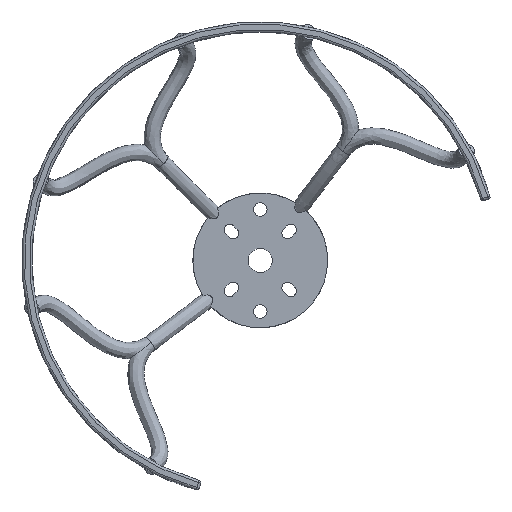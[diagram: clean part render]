
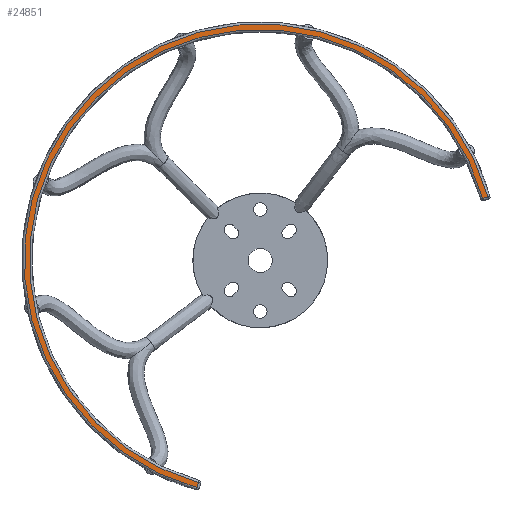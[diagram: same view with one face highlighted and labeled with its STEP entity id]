
A CAD part, top view. The second image highlights one B-rep face of the part: STEP entity #24851.
In plain terms, the highlighted planar face has unit normal (0, 0, 1).
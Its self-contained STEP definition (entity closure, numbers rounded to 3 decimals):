
#19255 = TOROIDAL_SURFACE('',#19256,47.95,0.45);
#19256 = AXIS2_PLACEMENT_3D('',#19257,#19258,#19259);
#19257 = CARTESIAN_POINT('',(-55.,55.,34.55));
#19258 = DIRECTION('',(0.,0.,-1.));
#19259 = DIRECTION('',(0.966,0.259,0.));
#20011 = TOROIDAL_SURFACE('',#20012,49.05,0.45);
#20012 = AXIS2_PLACEMENT_3D('',#20013,#20014,#20015);
#20013 = CARTESIAN_POINT('',(-55.,55.,34.55));
#20014 = DIRECTION('',(0.,0.,1.));
#20015 = DIRECTION('',(0.966,0.259,0.));
#23936 = VERTEX_POINT('',#23937);
#23937 = CARTESIAN_POINT('',(-8.802,67.844,35.));
#23966 = VERTEX_POINT('',#23967);
#23967 = CARTESIAN_POINT('',(-67.844,8.802,35.));
#23989 = EDGE_CURVE('',#23936,#23966,#23990,.T.);
#23990 = SURFACE_CURVE('',#23991,(#23996,#24003),.PCURVE_S1.);
#23991 = CIRCLE('',#23992,47.95);
#23992 = AXIS2_PLACEMENT_3D('',#23993,#23994,#23995);
#23993 = CARTESIAN_POINT('',(-55.,55.,35.));
#23994 = DIRECTION('',(0.,-0.,1.));
#23995 = DIRECTION('',(0.966,0.259,0.));
#23996 = PCURVE('',#19255,#23997);
#23997 = DEFINITIONAL_REPRESENTATION('',(#23998),#24002);
#23998 = LINE('',#23999,#24000);
#23999 = CARTESIAN_POINT('',(-0.,4.712));
#24000 = VECTOR('',#24001,1.);
#24001 = DIRECTION('',(-1.,0.));
#24002 = ( GEOMETRIC_REPRESENTATION_CONTEXT(2) 
PARAMETRIC_REPRESENTATION_CONTEXT() REPRESENTATION_CONTEXT('2D SPACE',''
  ) );
#24003 = PCURVE('',#24004,#24009);
#24004 = PLANE('',#24005);
#24005 = AXIS2_PLACEMENT_3D('',#24006,#24007,#24008);
#24006 = CARTESIAN_POINT('',(-66.497,66.497,35.));
#24007 = DIRECTION('',(0.,0.,1.));
#24008 = DIRECTION('',(-0.707,0.707,0.));
#24009 = DEFINITIONAL_REPRESENTATION('',(#24010),#24014);
#24010 = CIRCLE('',#24011,47.95);
#24011 = AXIS2_PLACEMENT_2D('',#24012,#24013);
#24012 = CARTESIAN_POINT('',(-16.259,0.));
#24013 = DIRECTION('',(-0.5,-0.866));
#24014 = ( GEOMETRIC_REPRESENTATION_CONTEXT(2) 
PARAMETRIC_REPRESENTATION_CONTEXT() REPRESENTATION_CONTEXT('2D SPACE',''
  ) );
#24412 = VERTEX_POINT('',#24413);
#24413 = CARTESIAN_POINT('',(-7.74,68.129,35.));
#24442 = VERTEX_POINT('',#24443);
#24443 = CARTESIAN_POINT('',(-68.129,7.74,35.));
#24465 = EDGE_CURVE('',#24412,#24442,#24466,.T.);
#24466 = SURFACE_CURVE('',#24467,(#24472,#24479),.PCURVE_S1.);
#24467 = CIRCLE('',#24468,49.05);
#24468 = AXIS2_PLACEMENT_3D('',#24469,#24470,#24471);
#24469 = CARTESIAN_POINT('',(-55.,55.,35.));
#24470 = DIRECTION('',(0.,-0.,1.));
#24471 = DIRECTION('',(0.966,0.259,0.));
#24472 = PCURVE('',#20011,#24473);
#24473 = DEFINITIONAL_REPRESENTATION('',(#24474),#24478);
#24474 = LINE('',#24475,#24476);
#24475 = CARTESIAN_POINT('',(0.,1.571));
#24476 = VECTOR('',#24477,1.);
#24477 = DIRECTION('',(1.,0.));
#24478 = ( GEOMETRIC_REPRESENTATION_CONTEXT(2) 
PARAMETRIC_REPRESENTATION_CONTEXT() REPRESENTATION_CONTEXT('2D SPACE',''
  ) );
#24479 = PCURVE('',#24004,#24480);
#24480 = DEFINITIONAL_REPRESENTATION('',(#24481),#24485);
#24481 = CIRCLE('',#24482,49.05);
#24482 = AXIS2_PLACEMENT_2D('',#24483,#24484);
#24483 = CARTESIAN_POINT('',(-16.259,0.));
#24484 = DIRECTION('',(-0.5,-0.866));
#24485 = ( GEOMETRIC_REPRESENTATION_CONTEXT(2) 
PARAMETRIC_REPRESENTATION_CONTEXT() REPRESENTATION_CONTEXT('2D SPACE',''
  ) );
#24779 = CYLINDRICAL_SURFACE('',#24780,0.45);
#24780 = AXIS2_PLACEMENT_3D('',#24781,#24782,#24783);
#24781 = CARTESIAN_POINT('',(-68.246,7.303,34.55));
#24782 = DIRECTION('',(0.259,0.966,0.));
#24783 = DIRECTION('',(0.966,-0.259,0.));
#24839 = CYLINDRICAL_SURFACE('',#24840,0.45);
#24840 = AXIS2_PLACEMENT_3D('',#24841,#24842,#24843);
#24841 = CARTESIAN_POINT('',(-7.303,68.246,34.55));
#24842 = DIRECTION('',(-0.966,-0.259,0.));
#24843 = DIRECTION('',(0.259,-0.966,0.));
#24851 = ADVANCED_FACE('',(#24852),#24004,.T.);
#24852 = FACE_BOUND('',#24853,.T.);
#24853 = EDGE_LOOP('',(#24854,#24855,#24876,#24877));
#24854 = ORIENTED_EDGE('',*,*,#24465,.T.);
#24855 = ORIENTED_EDGE('',*,*,#24856,.T.);
#24856 = EDGE_CURVE('',#24442,#23966,#24857,.T.);
#24857 = SURFACE_CURVE('',#24858,(#24862,#24869),.PCURVE_S1.);
#24858 = LINE('',#24859,#24860);
#24859 = CARTESIAN_POINT('',(-68.246,7.303,35.));
#24860 = VECTOR('',#24861,1.);
#24861 = DIRECTION('',(0.259,0.966,0.));
#24862 = PCURVE('',#24004,#24863);
#24863 = DEFINITIONAL_REPRESENTATION('',(#24864),#24868);
#24864 = LINE('',#24865,#24866);
#24865 = CARTESIAN_POINT('',(-40.62,43.093));
#24866 = VECTOR('',#24867,1.);
#24867 = DIRECTION('',(0.5,-0.866));
#24868 = ( GEOMETRIC_REPRESENTATION_CONTEXT(2) 
PARAMETRIC_REPRESENTATION_CONTEXT() REPRESENTATION_CONTEXT('2D SPACE',''
  ) );
#24869 = PCURVE('',#24779,#24870);
#24870 = DEFINITIONAL_REPRESENTATION('',(#24871),#24875);
#24871 = LINE('',#24872,#24873);
#24872 = CARTESIAN_POINT('',(-1.571,0.));
#24873 = VECTOR('',#24874,1.);
#24874 = DIRECTION('',(-0.,1.));
#24875 = ( GEOMETRIC_REPRESENTATION_CONTEXT(2) 
PARAMETRIC_REPRESENTATION_CONTEXT() REPRESENTATION_CONTEXT('2D SPACE',''
  ) );
#24876 = ORIENTED_EDGE('',*,*,#23989,.F.);
#24877 = ORIENTED_EDGE('',*,*,#24878,.F.);
#24878 = EDGE_CURVE('',#24412,#23936,#24879,.T.);
#24879 = SURFACE_CURVE('',#24880,(#24884,#24891),.PCURVE_S1.);
#24880 = LINE('',#24881,#24882);
#24881 = CARTESIAN_POINT('',(-7.303,68.246,35.));
#24882 = VECTOR('',#24883,1.);
#24883 = DIRECTION('',(-0.966,-0.259,0.));
#24884 = PCURVE('',#24004,#24885);
#24885 = DEFINITIONAL_REPRESENTATION('',(#24886),#24890);
#24886 = LINE('',#24887,#24888);
#24887 = CARTESIAN_POINT('',(-40.62,-43.093));
#24888 = VECTOR('',#24889,1.);
#24889 = DIRECTION('',(0.5,0.866));
#24890 = ( GEOMETRIC_REPRESENTATION_CONTEXT(2) 
PARAMETRIC_REPRESENTATION_CONTEXT() REPRESENTATION_CONTEXT('2D SPACE',''
  ) );
#24891 = PCURVE('',#24839,#24892);
#24892 = DEFINITIONAL_REPRESENTATION('',(#24893),#24897);
#24893 = LINE('',#24894,#24895);
#24894 = CARTESIAN_POINT('',(1.571,0.));
#24895 = VECTOR('',#24896,1.);
#24896 = DIRECTION('',(0.,1.));
#24897 = ( GEOMETRIC_REPRESENTATION_CONTEXT(2) 
PARAMETRIC_REPRESENTATION_CONTEXT() REPRESENTATION_CONTEXT('2D SPACE',''
  ) );
